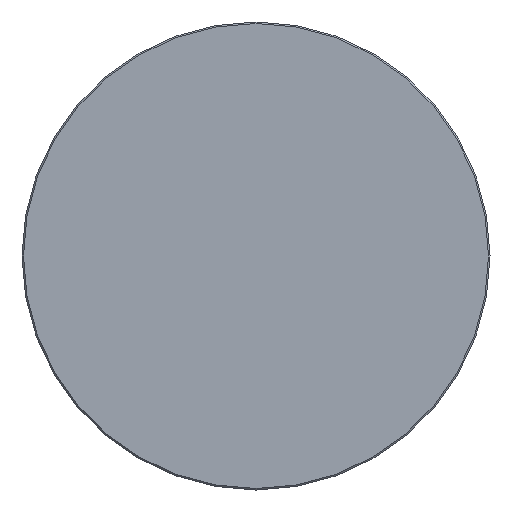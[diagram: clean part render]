
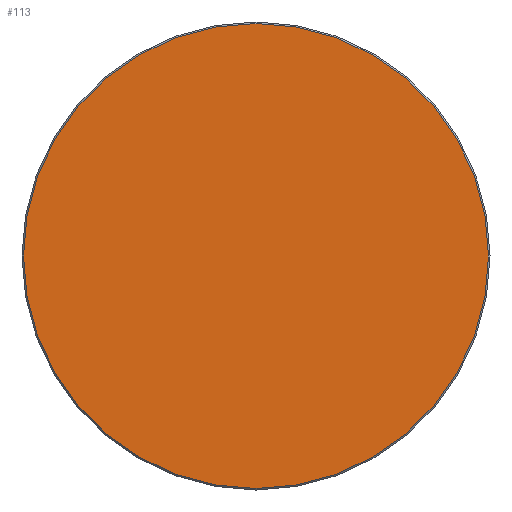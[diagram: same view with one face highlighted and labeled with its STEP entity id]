
A CAD part, left-side view. The second image highlights one B-rep face of the part: STEP entity #113.
In plain terms, the highlighted planar face has unit normal (-1, 0, 0).
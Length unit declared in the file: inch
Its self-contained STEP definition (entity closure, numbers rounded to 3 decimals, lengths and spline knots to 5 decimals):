
#27 = DIRECTION ( 'NONE',  ( -1., 0., 0. ) ) ;
#28 = CARTESIAN_POINT ( 'NONE',  ( 0., 0., 0. ) ) ;
#31 = VERTEX_POINT ( 'NONE', #52 ) ;
#42 = AXIS2_PLACEMENT_3D ( 'NONE', #236, #61, #318 ) ;
#52 = CARTESIAN_POINT ( 'NONE',  ( 0., 0.621, 0. ) ) ;
#61 = DIRECTION ( 'NONE',  ( -1., 0., 0. ) ) ;
#78 = EDGE_CURVE ( 'NONE', #31, #273, #350, .T. ) ;
#98 = CARTESIAN_POINT ( 'NONE',  ( 0., -0.621, 0. ) ) ;
#113 = ADVANCED_FACE ( 'NONE', ( #380 ), #146, .T. ) ;
#127 = CARTESIAN_POINT ( 'NONE',  ( 0., 0., 0. ) ) ;
#146 = PLANE ( 'NONE',  #42 ) ;
#187 = AXIS2_PLACEMENT_3D ( 'NONE', #28, #27, #293 ) ;
#188 = DIRECTION ( 'NONE',  ( -1., 0., 0. ) ) ;
#208 = CIRCLE ( 'NONE', #289, 0.621 ) ;
#236 = CARTESIAN_POINT ( 'NONE',  ( 0., 0., 0. ) ) ;
#242 = DIRECTION ( 'NONE',  ( 0., -1., 0. ) ) ;
#253 = EDGE_CURVE ( 'NONE', #273, #31, #208, .T. ) ;
#262 = ORIENTED_EDGE ( 'NONE', *, *, #253, .T. ) ;
#273 = VERTEX_POINT ( 'NONE', #98 ) ;
#285 = ORIENTED_EDGE ( 'NONE', *, *, #78, .T. ) ;
#289 = AXIS2_PLACEMENT_3D ( 'NONE', #127, #188, #242 ) ;
#293 = DIRECTION ( 'NONE',  ( 0., -1., 0. ) ) ;
#318 = DIRECTION ( 'NONE',  ( 0., -1., 0. ) ) ;
#347 = EDGE_LOOP ( 'NONE', ( #285, #262 ) ) ;
#350 = CIRCLE ( 'NONE', #187, 0.621 ) ;
#380 = FACE_OUTER_BOUND ( 'NONE', #347, .T. ) ;
